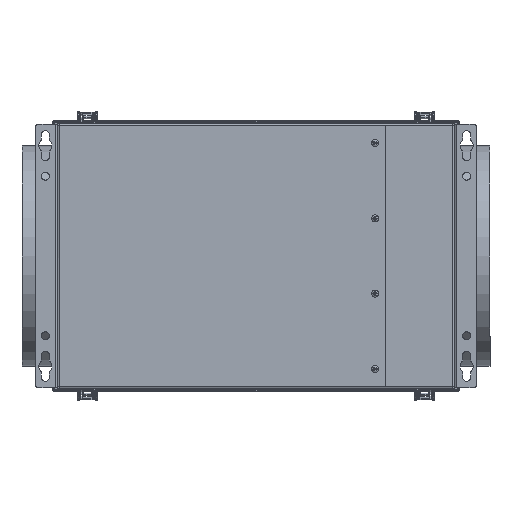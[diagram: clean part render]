
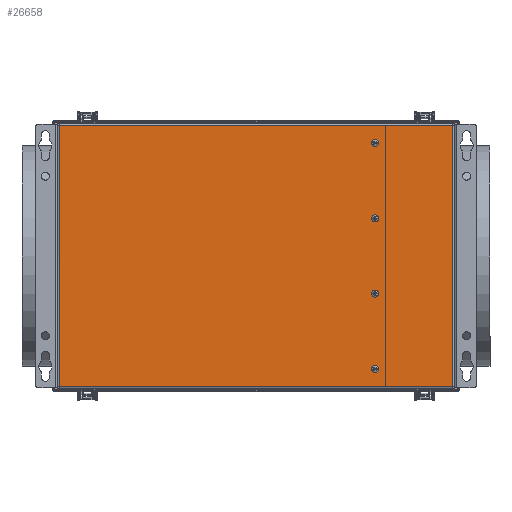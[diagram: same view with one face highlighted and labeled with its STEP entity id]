
A CAD part, front view. The second image highlights one B-rep face of the part: STEP entity #26658.
In plain terms, the highlighted planar face has unit normal (0, -1, 0).
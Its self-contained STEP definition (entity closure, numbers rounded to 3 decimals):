
#197 = DIRECTION ( 'NONE',  ( 0., 0., -1. ) ) ;
#613 = DIRECTION ( 'NONE',  ( 0., 0., -1. ) ) ;
#1217 = EDGE_CURVE ( 'NONE', #28768, #32600, #25714, .T. ) ;
#1562 = VERTEX_POINT ( 'NONE', #10075 ) ;
#1730 = EDGE_CURVE ( 'NONE', #1562, #22422, #30144, .T. ) ;
#2073 = VERTEX_POINT ( 'NONE', #27854 ) ;
#2124 = VERTEX_POINT ( 'NONE', #18407 ) ;
#2178 = CARTESIAN_POINT ( 'NONE',  ( 135., 0., -125.9 ) ) ;
#2516 = DIRECTION ( 'NONE',  ( 0., 0., -1. ) ) ;
#2532 = EDGE_CURVE ( 'NONE', #25779, #2729, #28883, .T. ) ;
#2729 = VERTEX_POINT ( 'NONE', #28956 ) ;
#2883 = CIRCLE ( 'NONE', #25600, 2.1 ) ;
#4231 = ORIENTED_EDGE ( 'NONE', *, *, #2532, .F. ) ;
#4248 = DIRECTION ( 'NONE',  ( 0., -1., 0. ) ) ;
#4270 = FACE_BOUND ( 'NONE', #23694, .T. ) ;
#4539 = EDGE_LOOP ( 'NONE', ( #28468, #26746, #24804, #9737 ) ) ;
#5095 = FACE_BOUND ( 'NONE', #14575, .T. ) ;
#5419 = VECTOR ( 'NONE', #12524, 1000. ) ;
#5450 = CARTESIAN_POINT ( 'NONE',  ( 135., 0., -128. ) ) ;
#5529 = CARTESIAN_POINT ( 'NONE',  ( 135., 0., 42.667 ) ) ;
#5618 = CARTESIAN_POINT ( 'NONE',  ( -225., 0., 150. ) ) ;
#5695 = VECTOR ( 'NONE', #8878, 1000. ) ;
#6130 = AXIS2_PLACEMENT_3D ( 'NONE', #5618, #28985, #13443 ) ;
#6532 = CIRCLE ( 'NONE', #21903, 2.1 ) ;
#7042 = CARTESIAN_POINT ( 'NONE',  ( 223., 0., -148. ) ) ;
#7164 = CARTESIAN_POINT ( 'NONE',  ( 135., 0., -130.1 ) ) ;
#7950 = DIRECTION ( 'NONE',  ( 0., -1., 0. ) ) ;
#8040 = DIRECTION ( 'NONE',  ( 0., 0., -1. ) ) ;
#8154 = DIRECTION ( 'NONE',  ( 0., 0., -1. ) ) ;
#8212 = AXIS2_PLACEMENT_3D ( 'NONE', #19797, #4248, #22411 ) ;
#8439 = EDGE_CURVE ( 'NONE', #20694, #28768, #13116, .T. ) ;
#8878 = DIRECTION ( 'NONE',  ( -1., 0., 0. ) ) ;
#8911 = VERTEX_POINT ( 'NONE', #2178 ) ;
#9116 = CARTESIAN_POINT ( 'NONE',  ( -225., 0., -148. ) ) ;
#9504 = EDGE_CURVE ( 'NONE', #22422, #1562, #2883, .T. ) ;
#9621 = DIRECTION ( 'NONE',  ( 0., 0., 1. ) ) ;
#9737 = ORIENTED_EDGE ( 'NONE', *, *, #23837, .T. ) ;
#9939 = CARTESIAN_POINT ( 'NONE',  ( -223., 0., 148. ) ) ;
#10075 = CARTESIAN_POINT ( 'NONE',  ( 135., 0., 125.9 ) ) ;
#10200 = EDGE_CURVE ( 'NONE', #2124, #25562, #6532, .T. ) ;
#10500 = CIRCLE ( 'NONE', #8212, 2.1 ) ;
#10573 = VERTEX_POINT ( 'NONE', #7164 ) ;
#10830 = LINE ( 'NONE', #7042, #24617 ) ;
#10841 = PLANE ( 'NONE',  #6130 ) ;
#11112 = VECTOR ( 'NONE', #27277, 1000. ) ;
#11194 = FACE_OUTER_BOUND ( 'NONE', #4539, .T. ) ;
#11212 = CIRCLE ( 'NONE', #25041, 2.1 ) ;
#12524 = DIRECTION ( 'NONE',  ( 0., 0., -1. ) ) ;
#12586 = ORIENTED_EDGE ( 'NONE', *, *, #32150, .F. ) ;
#12904 = EDGE_CURVE ( 'NONE', #10573, #8911, #11212, .T. ) ;
#13116 = LINE ( 'NONE', #9939, #5419 ) ;
#13294 = ORIENTED_EDGE ( 'NONE', *, *, #9504, .F. ) ;
#13443 = DIRECTION ( 'NONE',  ( 0., 0., 1. ) ) ;
#14121 = CIRCLE ( 'NONE', #30303, 2.1 ) ;
#14167 = AXIS2_PLACEMENT_3D ( 'NONE', #31286, #15714, #197 ) ;
#14575 = EDGE_LOOP ( 'NONE', ( #12586, #4231 ) ) ;
#14970 = CARTESIAN_POINT ( 'NONE',  ( 135., 0., 128. ) ) ;
#15714 = DIRECTION ( 'NONE',  ( 0., -1., 0. ) ) ;
#15934 = CARTESIAN_POINT ( 'NONE',  ( 223., 0., -148. ) ) ;
#16151 = DIRECTION ( 'NONE',  ( 0., -1., 0. ) ) ;
#16819 = EDGE_CURVE ( 'NONE', #8911, #10573, #10500, .T. ) ;
#17293 = CARTESIAN_POINT ( 'NONE',  ( -223., 0., 148. ) ) ;
#17586 = DIRECTION ( 'NONE',  ( 0., 0., -1. ) ) ;
#18046 = DIRECTION ( 'NONE',  ( 0., -1., 0. ) ) ;
#18358 = ORIENTED_EDGE ( 'NONE', *, *, #16819, .F. ) ;
#18407 = CARTESIAN_POINT ( 'NONE',  ( 135., 0., -40.567 ) ) ;
#19485 = LINE ( 'NONE', #24414, #5695 ) ;
#19797 = CARTESIAN_POINT ( 'NONE',  ( 135., 0., -128. ) ) ;
#20431 = CARTESIAN_POINT ( 'NONE',  ( 135., 0., 130.1 ) ) ;
#20446 = CARTESIAN_POINT ( 'NONE',  ( 135., 0., -44.767 ) ) ;
#20694 = VERTEX_POINT ( 'NONE', #17293 ) ;
#21903 = AXIS2_PLACEMENT_3D ( 'NONE', #31724, #16151, #613 ) ;
#22411 = DIRECTION ( 'NONE',  ( 0., 0., -1. ) ) ;
#22422 = VERTEX_POINT ( 'NONE', #20431 ) ;
#23007 = AXIS2_PLACEMENT_3D ( 'NONE', #5529, #23677, #8154 ) ;
#23474 = CARTESIAN_POINT ( 'NONE',  ( 135., 0., 42.667 ) ) ;
#23579 = DIRECTION ( 'NONE',  ( 0., -1., 0. ) ) ;
#23677 = DIRECTION ( 'NONE',  ( 0., -1., 0. ) ) ;
#23694 = EDGE_LOOP ( 'NONE', ( #27759, #31233 ) ) ;
#23837 = EDGE_CURVE ( 'NONE', #2073, #20694, #19485, .T. ) ;
#23875 = ORIENTED_EDGE ( 'NONE', *, *, #12904, .F. ) ;
#24091 = CIRCLE ( 'NONE', #23007, 2.1 ) ;
#24414 = CARTESIAN_POINT ( 'NONE',  ( 225., 0., 148. ) ) ;
#24548 = EDGE_LOOP ( 'NONE', ( #23875, #18358 ) ) ;
#24617 = VECTOR ( 'NONE', #9621, 1000. ) ;
#24804 = ORIENTED_EDGE ( 'NONE', *, *, #25933, .T. ) ;
#25041 = AXIS2_PLACEMENT_3D ( 'NONE', #5450, #23579, #8040 ) ;
#25343 = ORIENTED_EDGE ( 'NONE', *, *, #1730, .F. ) ;
#25562 = VERTEX_POINT ( 'NONE', #20446 ) ;
#25600 = AXIS2_PLACEMENT_3D ( 'NONE', #14970, #33115, #17586 ) ;
#25714 = LINE ( 'NONE', #9116, #11112 ) ;
#25779 = VERTEX_POINT ( 'NONE', #29161 ) ;
#25910 = CARTESIAN_POINT ( 'NONE',  ( -223., 0., -148. ) ) ;
#25933 = EDGE_CURVE ( 'NONE', #32600, #2073, #10830, .T. ) ;
#26090 = DIRECTION ( 'NONE',  ( 0., 0., -1. ) ) ;
#26597 = AXIS2_PLACEMENT_3D ( 'NONE', #23474, #7950, #26090 ) ;
#26658 = ADVANCED_FACE ( 'NONE', ( #5095, #31870, #11194, #4270, #33489 ), #10841, .F. ) ;
#26746 = ORIENTED_EDGE ( 'NONE', *, *, #1217, .T. ) ;
#27277 = DIRECTION ( 'NONE',  ( 1., 0., 0. ) ) ;
#27759 = ORIENTED_EDGE ( 'NONE', *, *, #29283, .F. ) ;
#27854 = CARTESIAN_POINT ( 'NONE',  ( 223., 0., 148. ) ) ;
#28468 = ORIENTED_EDGE ( 'NONE', *, *, #8439, .T. ) ;
#28768 = VERTEX_POINT ( 'NONE', #25910 ) ;
#28883 = CIRCLE ( 'NONE', #26597, 2.1 ) ;
#28956 = CARTESIAN_POINT ( 'NONE',  ( 135., 0., 40.567 ) ) ;
#28985 = DIRECTION ( 'NONE',  ( 0., 1., 0. ) ) ;
#29161 = CARTESIAN_POINT ( 'NONE',  ( 135., 0., 44.767 ) ) ;
#29283 = EDGE_CURVE ( 'NONE', #25562, #2124, #14121, .T. ) ;
#30144 = CIRCLE ( 'NONE', #14167, 2.1 ) ;
#30303 = AXIS2_PLACEMENT_3D ( 'NONE', #33583, #18046, #2516 ) ;
#31233 = ORIENTED_EDGE ( 'NONE', *, *, #10200, .F. ) ;
#31286 = CARTESIAN_POINT ( 'NONE',  ( 135., 0., 128. ) ) ;
#31724 = CARTESIAN_POINT ( 'NONE',  ( 135., 0., -42.667 ) ) ;
#31870 = FACE_BOUND ( 'NONE', #32632, .T. ) ;
#32150 = EDGE_CURVE ( 'NONE', #2729, #25779, #24091, .T. ) ;
#32600 = VERTEX_POINT ( 'NONE', #15934 ) ;
#32632 = EDGE_LOOP ( 'NONE', ( #25343, #13294 ) ) ;
#33115 = DIRECTION ( 'NONE',  ( 0., -1., 0. ) ) ;
#33489 = FACE_BOUND ( 'NONE', #24548, .T. ) ;
#33583 = CARTESIAN_POINT ( 'NONE',  ( 135., 0., -42.667 ) ) ;
